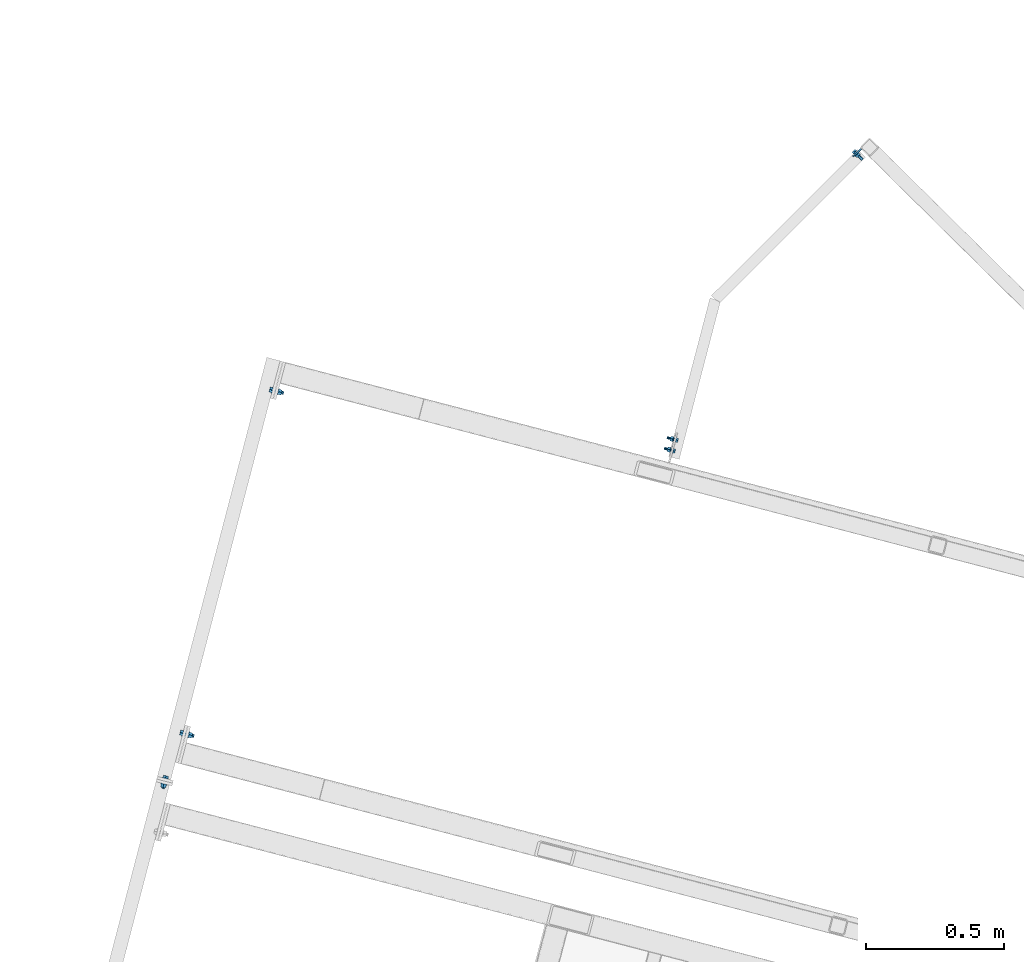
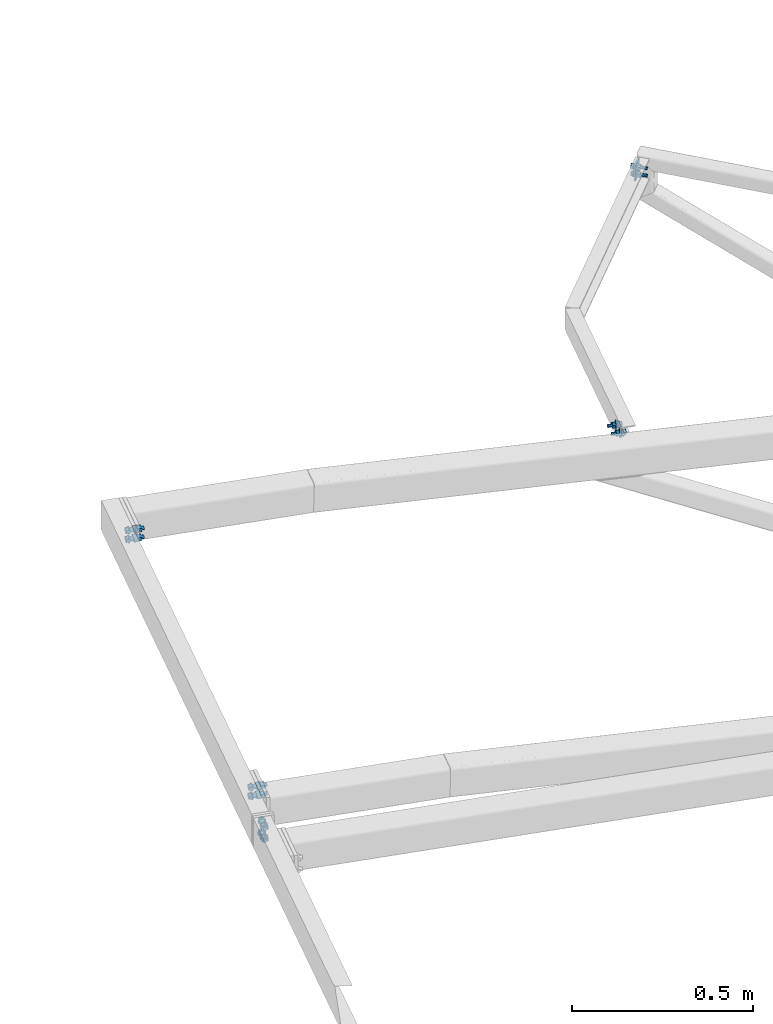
# One storey, part 157 of 169: 5 mechanical fasteners, 1 discrete accessory, 5 elements without a shape of their own.
"""IFC2X3 building model written with IfcOpenShell, lengths in millimetres."""

import ifcopenshell
import ifcopenshell.guid

model = None  # the IFC model being written
_history = None  # IfcOwnerHistory: only IFC2X3 demands one
_inside = {}  # id of a spatial element -> (the spatial element, [elements in it])
_under = {}  # id of a project, library or spatial element -> (it, [spatial elements below it])
_declared = {}  # id of a project -> (the project, [libraries it declares])
_typed = {}  # id of a type object -> (the type object, [elements of that type])
_made_of = {}  # id of a material, layer set ... -> (it, [elements and type objects made of it])


def new_model(schema):
    """Start an empty IFC model of exactly this schema.

    Asked for "IFC4X3", IfcOpenShell would pick the latest addendum, in which some entities
    have other attributes; the version numbers below select the first issue.
    IFC2X3 requires an IfcOwnerHistory on every rooted entity: one is made here for all.
    """
    global model, _history
    if schema == "IFC4X3":
        model = ifcopenshell.file(schema_version=(4, 3, 0, 0))
    else:
        model = ifcopenshell.file(schema=schema)
    _inside.clear()
    _under.clear()
    _declared.clear()
    _typed.clear()
    _made_of.clear()
    _history = None
    if model.schema == "IFC2X3":
        org = make("IfcOrganization", Name="unknown")
        user = make(
            "IfcPersonAndOrganization",
            ThePerson=make("IfcPerson", FamilyName="unknown"),
            TheOrganization=org,
        )
        app = make(
            "IfcApplication",
            ApplicationDeveloper=org,
            Version="unknown",
            ApplicationFullName="unknown",
            ApplicationIdentifier="unknown",
        )
        _history = make(
            "IfcOwnerHistory",
            OwningUser=user,
            OwningApplication=app,
            ChangeAction="ADDED",
            CreationDate=0,
        )
    return model


def make(cls, **values):
    """One entity of the class cls with the attributes given. An attribute that is None is left unset."""
    return model.create_entity(
        cls, **{name: value for name, value in values.items() if value is not None}
    )


def rooted(cls, **values):
    """An entity with a GlobalId (a new one), such as an element, a storey or a relation."""
    return make(cls, GlobalId=ifcopenshell.guid.new(), OwnerHistory=_history, **values)


def si_unit(unit_type, name, prefix=None):
    """IfcSIUnit, for example si_unit("LENGTHUNIT", "METRE", prefix="MILLI")."""
    return make("IfcSIUnit", UnitType=unit_type, Prefix=prefix, Name=name)


def assignment(units):
    """IfcUnitAssignment: the units of a project."""
    return None if units is None else make("IfcUnitAssignment", Units=units)


def point(xyz):
    """IfcCartesianPoint."""
    return None if xyz is None else make("IfcCartesianPoint", Coordinates=xyz)


def direction(xyz):
    """IfcDirection."""
    return None if xyz is None else make("IfcDirection", DirectionRatios=xyz)


def frame(location, z_axis=None, x_axis=None):
    """IfcAxis2Placement3D, a coordinate frame: its origin and axes. An axis left out is left unset."""
    return make(
        "IfcAxis2Placement3D",
        Location=point(location),
        Axis=direction(z_axis),
        RefDirection=direction(x_axis),
    )


def frame_2d(location, x_axis=None):
    """IfcAxis2Placement2D, a coordinate frame in the plane: its origin and x axis."""
    return make(
        "IfcAxis2Placement2D", Location=point(location), RefDirection=direction(x_axis)
    )


def origin_with_axes():
    """The frame at (0, 0, 0) with the z axis (0, 0, 1) and the x axis (1, 0, 0) written out."""
    return frame((0.0, 0.0, 0.0), z_axis=(0.0, 0.0, 1.0), x_axis=(1.0, 0.0, 0.0))


def origin_2d_with_axis():
    """The frame at (0, 0) in the plane with the x axis (1, 0) written out."""
    return frame_2d((0.0, 0.0), x_axis=(1.0, 0.0))


def place(relative_to, where):
    """IfcLocalPlacement: puts the frame where relative to a parent placement (None: the world)."""
    return make(
        "IfcLocalPlacement", PlacementRelTo=relative_to, RelativePlacement=where
    )


def context(
    kind, dimensions, precision=None, world=None, true_north=None, identifier=None
):
    """IfcGeometricRepresentationContext, for example the 3D "Model" context."""
    return make(
        "IfcGeometricRepresentationContext",
        ContextIdentifier=identifier,
        ContextType=kind,
        CoordinateSpaceDimension=dimensions,
        Precision=precision,
        WorldCoordinateSystem=world,
        TrueNorth=true_north,
    )


def subcontext(parent, identifier, kind, view, scale=None):
    """IfcGeometricRepresentationSubContext, for example "Body" below "Model"."""
    return make(
        "IfcGeometricRepresentationSubContext",
        ContextIdentifier=identifier,
        ContextType=kind,
        ParentContext=parent,
        TargetScale=scale,
        TargetView=view,
    )


def project(units=None, contexts=None):
    """IfcProject with its units and contexts."""
    return rooted(
        "IfcProject",
        Name="project",
        RepresentationContexts=contexts,
        UnitsInContext=assignment(units),
    )


def spatial(cls, under=None, at=None, **own):
    """A site, building, storey or space (cls), placed at a placement, below another one or the project."""
    s = rooted(cls, ObjectPlacement=at, **own)
    if under is not None:
        _under.setdefault(under.id(), (under, []))[1].append(s)
    return s


def polyline(points):
    """IfcPolyline through the points."""
    return make("IfcPolyline", Points=[point(p) for p in points])


def circle_curve(where, radius):
    """IfcCircle in the frame where."""
    return make("IfcCircle", Position=where, Radius=radius)


def parameter(value):
    """IfcParameterValue: where a trimmed curve begins or ends, as a parameter of its basis curve."""
    return model.create_entity("IfcParameterValue", value)


def trimmed(basis, trim1, trim2, sense, master):
    """IfcTrimmedCurve: the piece of a basis curve between two trims."""
    return make(
        "IfcTrimmedCurve",
        BasisCurve=basis,
        Trim1=trim1,
        Trim2=trim2,
        SenseAgreement=sense,
        MasterRepresentation=master,
    )


def segment(curve, same_sense, transition):
    """IfcCompositeCurveSegment."""
    return make(
        "IfcCompositeCurveSegment",
        Transition=transition,
        SameSense=same_sense,
        ParentCurve=curve,
    )


def composite_curve(segments, self_intersect=None):
    """IfcCompositeCurve: segments joined end to end."""
    return make("IfcCompositeCurve", Segments=segments, SelfIntersect=self_intersect)


def profile(cls, at=None, kind="AREA", **sizes):
    """A parametric profile (cls). Its sizes go by their IFC names, for example OverallWidth=200.0."""
    return make(cls, ProfileType=kind, Position=at, **sizes)


def circle(**sizes):
    """IfcCircleProfileDef."""
    return profile("IfcCircleProfileDef", **sizes)


def outline(outer, holes=None, kind="AREA"):
    """IfcArbitraryClosedProfileDef: a profile drawn as a closed curve; with holes, ...WithVoids."""
    if holes is None:
        return make("IfcArbitraryClosedProfileDef", ProfileType=kind, OuterCurve=outer)
    return make(
        "IfcArbitraryProfileDefWithVoids",
        ProfileType=kind,
        OuterCurve=outer,
        InnerCurves=holes,
    )


def extrude(swept, where, along, depth):
    """IfcExtrudedAreaSolid: the profile swept, set in the frame where, extruded along a direction by depth."""
    return make(
        "IfcExtrudedAreaSolid",
        SweptArea=swept,
        Position=where,
        ExtrudedDirection=direction(along),
        Depth=depth,
    )


def shape(context_of_items, identifier, shape_type, items):
    """IfcShapeRepresentation: the items that make up one representation, for example the "Body"."""
    return make(
        "IfcShapeRepresentation",
        ContextOfItems=context_of_items,
        RepresentationIdentifier=identifier,
        RepresentationType=shape_type,
        Items=items,
    )


def source(mapping_origin, context_of_items, identifier, shape_type, items):
    """IfcRepresentationMap: a shape defined once, which mapped items show again and again."""
    return make(
        "IfcRepresentationMap",
        MappingOrigin=mapping_origin,
        MappedRepresentation=shape(context_of_items, identifier, shape_type, items),
    )


def transform(
    local_origin,
    x_axis=None,
    y_axis=None,
    z_axis=None,
    scale=None,
    scale2=None,
    scale3=None,
    uniform=True,
):
    """IfcCartesianTransformationOperator3D, or its non-uniform kind. x_axis, y_axis, z_axis: its Axis1, 2, 3."""
    if uniform:
        return make(
            "IfcCartesianTransformationOperator3D",
            Axis1=direction(x_axis),
            Axis2=direction(y_axis),
            LocalOrigin=point(local_origin),
            Scale=scale,
            Axis3=direction(z_axis),
        )
    return make(
        "IfcCartesianTransformationOperator3DnonUniform",
        Axis1=direction(x_axis),
        Axis2=direction(y_axis),
        LocalOrigin=point(local_origin),
        Scale=scale,
        Axis3=direction(z_axis),
        Scale2=scale2,
        Scale3=scale3,
    )


def mapped(mapping_source, mapping_target):
    """IfcMappedItem: shows the shape of a source again, moved by a transform."""
    return make(
        "IfcMappedItem", MappingSource=mapping_source, MappingTarget=mapping_target
    )


def material(Name=None, Category=None):
    """IfcMaterial."""
    return make("IfcMaterial", Name=Name, Category=Category)


def made_of(thing, what):
    """Note that an element or type object is made of a material, layer set ...; save() writes the relation."""
    if what is not None:
        _made_of.setdefault(what.id(), (what, []))[1].append(thing)
    return thing


def type_object(cls, material=None, **own):
    """A type object (cls), such as IfcWallType, which elements share."""
    return made_of(rooted(cls, **own), material)


def element(
    cls,
    number,
    at=None,
    inside=None,
    cuts=None,
    type_object=None,
    material=None,
    context=None,
    identifier="Body",
    shape_type=None,
    held_by="IfcProductDefinitionShape",
    body=None,
    shapes=None,
    **own,
):
    """One element of the class cls, such as IfcWall. Its Tag is "e" and its number.

    at: its placement. inside: the storey or other place that contains it. cuts: it is an
    opening in that element (IfcRelVoidsElement). A single representation is given by context,
    identifier, shape_type and body (its items); several are given by shapes. held_by: the class
    of the entity that holds the representations. save() writes the other relations.
    """
    e = rooted(cls, Tag="e%d" % number, ObjectPlacement=at, **own)
    if body is not None:
        shapes = [shape(context, identifier, shape_type, body)]
    if shapes is not None:
        e.Representation = make(held_by, Representations=shapes)
    if inside is not None:
        _inside.setdefault(inside.id(), (inside, []))[1].append(e)
    if cuts is not None:
        rooted(
            "IfcRelVoidsElement", RelatingBuildingElement=cuts, RelatedOpeningElement=e
        )
    if type_object is not None:
        _typed.setdefault(type_object.id(), (type_object, []))[1].append(e)
    return made_of(e, material)


def aggregate(whole, parts):
    """IfcRelAggregates: a whole, such as a stair, and the parts it consists of."""
    return rooted("IfcRelAggregates", RelatingObject=whole, RelatedObjects=parts)


def save(model, path):
    """Write the relations noted so far, then the file.

    IfcRelAggregates (storeys below a building ...), IfcRelContainedInSpatialStructure (elements
    in a storey), IfcRelDefinesByType, IfcRelAssociatesMaterial and IfcRelDeclares: one each for
    every whole, place, type object, material and project.
    """
    for whole, parts in _under.values():
        aggregate(whole, parts)
    for where, things in _inside.values():
        rooted(
            "IfcRelContainedInSpatialStructure",
            RelatedElements=things,
            RelatingStructure=where,
        )
    for kind, things in _typed.values():
        rooted("IfcRelDefinesByType", RelatedObjects=things, RelatingType=kind)
    for what, things in _made_of.values():
        rooted("IfcRelAssociatesMaterial", RelatedObjects=things, RelatingMaterial=what)
    for by, libraries in _declared.values():
        rooted("IfcRelDeclares", RelatingContext=by, RelatedDefinitions=libraries)
    model.write(path)


model = new_model("IFC2X3")

# Units and contexts
model_context = context("Model", 3, precision=1e-05, world=origin_with_axes())
body_context = subcontext(model_context, "Body", "Model", "MODEL_VIEW")
ifc_project = project(units=[si_unit("LENGTHUNIT", "METRE", prefix="MILLI"), si_unit("AREAUNIT", "SQUARE_METRE"), si_unit("VOLUMEUNIT", "CUBIC_METRE"), si_unit("MASSUNIT", "GRAM", prefix="KILO"), si_unit("TIMEUNIT", "SECOND"), si_unit("PLANEANGLEUNIT", "RADIAN"), si_unit("SOLIDANGLEUNIT", "STERADIAN"), si_unit("THERMODYNAMICTEMPERATUREUNIT", "DEGREE_CELSIUS"), si_unit("LUMINOUSINTENSITYUNIT", "LUMEN")], contexts=[model_context])

# Site, building, storey
site_placement = place(None, origin_with_axes())
site = spatial("IfcSite", under=ifc_project, at=site_placement, Name="Undefined", CompositionType="ELEMENT")
building_placement = place(site_placement, origin_with_axes())
building = spatial("IfcBuilding", under=site, at=building_placement, Name="Undefined", CompositionType="ELEMENT")
storey_placement = place(building_placement, origin_with_axes())
storey = spatial("IfcBuildingStorey", under=building, at=storey_placement, Name="Undefined", CompositionType="ELEMENT", Elevation=0.0)

# Assembly, mechanical fastener
assembly_1_placement = place(storey_placement, origin_with_axes())
assembly_1 = element("IfcElementAssembly", 1, at=assembly_1_placement, inside=storey, Name="Steel Assembly", AssemblyPlace="NOTDEFINED", PredefinedType="RIGID_FRAME")
ifc_material_1 = material(Name="Undefined")
discrete_accessory_type_1 = type_object("IfcDiscreteAccessoryType", Name="Bolt assembly")
shared_shape_1 = source(origin_with_axes(), body_context, "Body", "SweptSolid", [
    extrude(circle(Radius=7.5, at=origin_2d_with_axis()), frame((0.0, -9.90000000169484, 0.0), z_axis=(0.0, 1.0, 0.0), x_axis=(1.0, 0.0, 0.0)), (0.0, 0.0, 1.0), 10.0),
    extrude(circle(Radius=7.5, at=origin_2d_with_axis()), frame((0.0, -0.100000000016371, 0.0), z_axis=(0.0, 1.0, 0.0), x_axis=(1.0, 0.0, 0.0)), (0.0, 0.0, 1.0), 10.1),
    extrude(outline(polyline([(10.39230484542, 0.0), (5.19615242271, 9.00000000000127), (-5.19615242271, 9.00000000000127), (-10.39230484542, 0.0), (-5.19615242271, -9.00000000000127), (5.19615242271, -9.00000000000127), (10.39230484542, 0.0)])), frame((0.0, -20.0000000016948, 0.0), z_axis=(0.0, 1.0, 0.0), x_axis=(1.0, 0.0, 0.0)), (0.0, 0.0, 1.0), 7.5),
    extrude(circle(Radius=6.0, at=origin_2d_with_axis()), frame((0.0, -12.5000000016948, 0.0), z_axis=(0.0, 1.0, 0.0), x_axis=(1.0, 0.0, 0.0)), (0.0, 0.0, 1.0), 40.0),
    extrude(circle(Radius=12.0, at=origin_2d_with_axis()), frame((0.0, -12.5000000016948, 0.0), z_axis=(0.0, 1.0, 0.0), x_axis=(1.0, 0.0, 0.0)), (0.0, 0.0, 1.0), 2.5),
    extrude(circle(Radius=12.0, at=origin_2d_with_axis()), frame((0.0, 9.99999999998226, 0.0), z_axis=(0.0, 1.0, 0.0), x_axis=(1.0, 0.0, 0.0)), (0.0, 0.0, 1.0), 2.5),
    extrude(outline(polyline([(10.96965511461, 0.0), (5.484827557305, 9.50000000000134), (-5.484827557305, 9.50000000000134), (-10.96965511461, 0.0), (-5.484827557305, -9.50000000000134), (5.484827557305, -9.50000000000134), (10.96965511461, 0.0)])), frame((0.0, 12.4999999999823, 0.0), z_axis=(0.0, 1.0, 0.0), x_axis=(1.0, 0.0, 0.0)), (0.0, 0.0, 1.0), 10.0),
])
mechanical_fastener_1_placement = place(assembly_1_placement, frame((-26311.606784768, 11212.2612754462, 13925.3759255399), z_axis=(0.96756338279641, -0.25262835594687, 0.000118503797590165), x_axis=(-8.00909999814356e-05, 0.000162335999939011, 0.999999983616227)))
mechanical_fastener_1 = element("IfcMechanicalFastener", 2, at=mechanical_fastener_1_placement, type_object=discrete_accessory_type_1, material=ifc_material_1, Name="Bolt assembly", NominalDiameter=12.0, NominalLength=40.0, context=body_context, shape_type="MappedRepresentation", body=[
    mapped(shared_shape_1, transform((30.0000000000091, 2.09183781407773e-11, 5.00000000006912))),
    mapped(shared_shape_1, transform((70.00000000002, 3.00133251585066e-11, 5.0000000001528))),
])
aggregate(assembly_1, [mechanical_fastener_1])

# Assembly, discrete accessory
assembly_2_placement = place(storey_placement, origin_with_axes())
assembly_2 = element("IfcElementAssembly", 3, at=assembly_2_placement, inside=storey, Name="Steel Assembly", AssemblyPlace="NOTDEFINED", PredefinedType="RIGID_FRAME")
ifc_material_2 = material(Name="STEEL/S235")
discrete_accessory_type_2 = type_object("IfcDiscreteAccessoryType", Name="BLACHA")
discrete_accessory_placement = place(assembly_2_placement, frame((-23796.5256209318, 13489.5966139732, 13918.073987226), z_axis=(0.711191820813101, -0.702997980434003, 0.000183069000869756), x_axis=(0.00032810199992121, 0.000592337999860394, 0.99999977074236)))
discrete_accessory = element("IfcDiscreteAccessory", 4, at=discrete_accessory_placement, type_object=discrete_accessory_type_2, material=ifc_material_2, Name="BLACHA", ObjectType="BL40X5", context=body_context, shape_type="SweptSolid", body=[
    extrude(outline(polyline([(3.27418092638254e-11, 20.0000000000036), (54.0000420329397, 19.9999999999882), (54.0000420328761, -20.0000000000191), (-3.27418092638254e-11, -20.0000000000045), (3.27418092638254e-11, 20.0000000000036)])), frame((6.80888809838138e-19, -2.87858853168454e-21, -2.49999999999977), z_axis=(0.0, 0.0, 1.0), x_axis=(1.0, 0.0, 0.0)), (0.0, 0.0, 1.0), 5.0),
])
aggregate(assembly_2, [discrete_accessory])

# Assembly, mechanical fasteners
assembly_3_placement = place(storey_placement, origin_with_axes())
assembly_3 = element("IfcElementAssembly", 5, at=assembly_3_placement, inside=storey, Name="Steel Assembly", AssemblyPlace="NOTDEFINED", PredefinedType="RIGID_FRAME")
shared_shape_2 = source(origin_with_axes(), body_context, "Body", "SweptSolid", [
    extrude(circle(Radius=6.0, at=origin_2d_with_axis()), frame((0.0, -0.100000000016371, 0.0), z_axis=(0.0, 1.0, 0.0), x_axis=(1.0, 0.0, 0.0)), (0.0, 0.0, 1.0), 5.1),
    extrude(circle(Radius=6.0, at=origin_2d_with_axis()), frame((0.0, -3.47051235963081, 0.0), z_axis=(0.0, 1.0, 0.0), x_axis=(1.0, 0.0, 0.0)), (0.0, 0.0, 1.0), 4.0),
    extrude(outline(polyline([(8.66025403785, 0.0), (4.330127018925, 7.50000000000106), (-4.330127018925, 7.50000000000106), (-8.66025403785, 0.0), (-4.330127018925, -7.50000000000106), (4.330127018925, -7.50000000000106), (8.66025403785, 0.0)])), frame((0.0, -11.9705124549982, 0.0), z_axis=(0.0, 1.0, 0.0), x_axis=(1.0, 0.0, 0.0)), (0.0, 0.0, 1.0), 6.4),
    extrude(circle(Radius=5.0, at=origin_2d_with_axis()), frame((0.0, -5.57051235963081, 0.0), z_axis=(0.0, 1.0, 0.0), x_axis=(1.0, 0.0, 0.0)), (0.0, 0.0, 1.0), 40.0),
    extrude(circle(Radius=10.0, at=origin_2d_with_axis()), frame((0.0, -5.57051235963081, 0.0), z_axis=(0.0, 1.0, 0.0), x_axis=(1.0, 0.0, 0.0)), (0.0, 0.0, 1.0), 2.0),
    extrude(circle(Radius=10.0, at=origin_2d_with_axis()), frame((0.0, 4.99997856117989, 0.0), z_axis=(0.0, 1.0, 0.0), x_axis=(1.0, 0.0, 0.0)), (0.0, 0.0, 1.0), 2.0),
    extrude(outline(polyline([(9.81495457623, 0.0), (4.907477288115, 8.5000000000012), (-4.907477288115, 8.5000000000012), (-9.81495457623, 0.0), (-4.907477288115, -8.5000000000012), (4.907477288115, -8.5000000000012), (9.81495457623, 0.0)])), frame((0.0, 6.99997856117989, 0.0), z_axis=(0.0, 1.0, 0.0), x_axis=(1.0, 0.0, 0.0)), (0.0, 0.0, 1.0), 8.0),
])
mechanical_fastener_2_placement = place(assembly_3_placement, frame((-23784.22328434, 13505.6146507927, 13980.060518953), z_axis=(-0.702997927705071, -0.711191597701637, 0.00065192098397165), x_axis=(-0.000328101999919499, -0.000592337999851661, -0.99999977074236)))
mechanical_fastener_2 = element("IfcMechanicalFastener", 6, at=mechanical_fastener_2_placement, type_object=discrete_accessory_type_1, material=ifc_material_1, Name="Bolt assembly", NominalDiameter=10.0, NominalLength=40.0, context=body_context, shape_type="MappedRepresentation", body=[
    mapped(shared_shape_2, transform((22.5000209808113, 9.45874489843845e-11, 25.0000000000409))),
    mapped(shared_shape_2, transform((47.5000228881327, 1.23691279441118e-10, 25.0000000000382))),
])
shared_shape_3 = source(origin_with_axes(), body_context, "Body", "SweptSolid", [
    extrude(outline(composite_curve([segment(polyline([(6.0, 10.0), (6.0, -10.0)]), True, "CONTINUOUS"), segment(trimmed(circle_curve(frame_2d((0.0, -10.0), x_axis=(1.0, 0.0)), 6.0), [parameter(0.0)], [parameter(3.14159265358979)], False, "PARAMETER"), True, "CONTINUOUS"), segment(polyline([(-6.0, -10.0), (-6.0, 10.0)]), True, "CONTINUOUS"), segment(trimmed(circle_curve(frame_2d((0.0, 10.0), x_axis=(-1.0, 0.0)), 6.0), [parameter(0.0)], [parameter(3.14159265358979)], False, "PARAMETER"), True, "DISCONTINUOUS")], self_intersect=False)), frame((0.0, -5.89984958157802, 0.0), z_axis=(0.0, 1.0, 0.0), x_axis=(1.0, 0.0, 0.0)), (0.0, 0.0, 1.0), 6.0),
    extrude(outline(composite_curve([segment(polyline([(-10.0, 6.0), (10.0, 6.0)]), True, "CONTINUOUS"), segment(trimmed(circle_curve(frame_2d((10.0, 0.0), x_axis=(0.0, 1.0)), 6.0), [parameter(0.0)], [parameter(3.14159265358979)], False, "PARAMETER"), True, "CONTINUOUS"), segment(polyline([(10.0, -6.0), (-10.0, -6.0)]), True, "CONTINUOUS"), segment(trimmed(circle_curve(frame_2d((-10.0, 0.0), x_axis=(0.0, -1.0)), 6.0), [parameter(0.0)], [parameter(3.14159265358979)], False, "PARAMETER"), True, "DISCONTINUOUS")], self_intersect=False)), frame((0.0, -0.100000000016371, 0.0), z_axis=(0.0, 1.0, 0.0), x_axis=(1.0, 0.0, 0.0)), (0.0, 0.0, 1.0), 4.1),
    extrude(outline(polyline([(8.66025403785, 0.0), (4.330127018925, 7.50000000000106), (-4.330127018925, 7.50000000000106), (-8.66025403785, 0.0), (-4.330127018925, -7.50000000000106), (4.330127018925, -7.50000000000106), (8.66025403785, 0.0)])), frame((0.0, -14.3998496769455, 0.0), z_axis=(0.0, 1.0, 0.0), x_axis=(1.0, 0.0, 0.0)), (0.0, 0.0, 1.0), 6.4),
    extrude(circle(Radius=5.0, at=origin_2d_with_axis()), frame((0.0, -7.99984958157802, 0.0), z_axis=(0.0, 1.0, 0.0), x_axis=(1.0, 0.0, 0.0)), (0.0, 0.0, 1.0), 35.0),
    extrude(circle(Radius=10.0, at=origin_2d_with_axis()), frame((0.0, -7.99984958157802, 0.0), z_axis=(0.0, 1.0, 0.0), x_axis=(1.0, 0.0, 0.0)), (0.0, 0.0, 1.0), 2.0),
    extrude(circle(Radius=10.0, at=origin_2d_with_axis()), frame((0.0, 3.99999999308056, 0.0), z_axis=(0.0, 1.0, 0.0), x_axis=(1.0, 0.0, 0.0)), (0.0, 0.0, 1.0), 2.0),
    extrude(outline(polyline([(9.81495457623, 0.0), (4.907477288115, 8.5000000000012), (-4.907477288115, 8.5000000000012), (-9.81495457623, 0.0), (-4.907477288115, -8.5000000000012), (4.907477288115, -8.5000000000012), (9.81495457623, 0.0)])), frame((0.0, 5.99999999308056, 0.0), z_axis=(0.0, 1.0, 0.0), x_axis=(1.0, 0.0, 0.0)), (0.0, 0.0, 1.0), 8.0),
])
mechanical_fastener_3_placement = place(assembly_3_placement, frame((-24481.3856474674, 12367.370902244, 13980.1628926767), z_axis=(0.252628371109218, 0.967563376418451, -0.000136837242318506), x_axis=(8.00909999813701e-05, -0.000162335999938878, -0.999999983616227)))
mechanical_fastener_3 = element("IfcMechanicalFastener", 7, at=mechanical_fastener_3_placement, type_object=discrete_accessory_type_1, material=ifc_material_1, Name="Bolt assembly", NominalDiameter=10.0, NominalLength=35.0, context=body_context, shape_type="MappedRepresentation", body=[
    mapped(shared_shape_3, transform((34.9999999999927, -1.60071067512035e-10, 44.9999999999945))),
    mapped(shared_shape_3, transform((34.9999999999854, -2.7648638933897e-10, 84.9999999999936))),
])
aggregate(assembly_3, [mechanical_fastener_2, mechanical_fastener_3])

# Assembly, mechanical fastener
assembly_4_placement = place(storey_placement, origin_with_axes())
assembly_4 = element("IfcElementAssembly", 8, at=assembly_4_placement, inside=storey, Name="Steel Assembly", AssemblyPlace="NOTDEFINED", PredefinedType="RIGID_FRAME")
shared_shape_4 = source(origin_with_axes(), body_context, "Body", "SweptSolid", [
    extrude(circle(Radius=7.5, at=origin_2d_with_axis()), frame((0.0, -10.3999999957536, 0.0), z_axis=(0.0, 1.0, 0.0), x_axis=(1.0, 0.0, 0.0)), (0.0, 0.0, 1.0), 10.0),
    extrude(outline(composite_curve([segment(polyline([(7.5, 7.5), (7.5, -7.5)]), True, "CONTINUOUS"), segment(trimmed(circle_curve(frame_2d((0.0, -7.5), x_axis=(1.0, 0.0)), 7.5), [parameter(0.0)], [parameter(3.14159265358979)], False, "PARAMETER"), True, "CONTINUOUS"), segment(polyline([(-7.5, -7.5), (-7.5, 7.5)]), True, "CONTINUOUS"), segment(trimmed(circle_curve(frame_2d((0.0, 7.5), x_axis=(-1.0, 0.0)), 7.5), [parameter(0.0)], [parameter(3.14159265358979)], False, "PARAMETER"), True, "DISCONTINUOUS")], self_intersect=False)), frame((0.0, 0.400000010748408, 0.0), z_axis=(0.0, 1.0, 0.0), x_axis=(1.0, 0.0, 0.0)), (0.0, 0.0, 1.0), 10.1),
    extrude(outline(polyline([(10.39230484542, 0.0), (5.19615242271, 9.00000000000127), (-5.19615242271, 9.00000000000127), (-10.39230484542, 0.0), (-5.19615242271, -9.00000000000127), (5.19615242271, -9.00000000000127), (10.39230484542, 0.0)])), frame((0.0, -20.9999999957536, 0.0), z_axis=(0.0, 1.0, 0.0), x_axis=(1.0, 0.0, 0.0)), (0.0, 0.0, 1.0), 7.5),
    extrude(circle(Radius=6.0, at=origin_2d_with_axis()), frame((0.0, -13.4999999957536, 0.0), z_axis=(0.0, 1.0, 0.0), x_axis=(1.0, 0.0, 0.0)), (0.0, 0.0, 1.0), 45.0),
    extrude(circle(Radius=12.0, at=origin_2d_with_axis()), frame((0.0, -13.4999999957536, 0.0), z_axis=(0.0, 1.0, 0.0), x_axis=(1.0, 0.0, 0.0)), (0.0, 0.0, 1.0), 3.0),
    extrude(circle(Radius=12.0, at=origin_2d_with_axis()), frame((0.0, 10.500000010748, 0.0), z_axis=(0.0, 1.0, 0.0), x_axis=(1.0, 0.0, 0.0)), (0.0, 0.0, 1.0), 3.0),
    extrude(outline(polyline([(10.96965511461, 0.0), (5.484827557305, 9.50000000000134), (-5.484827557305, 9.50000000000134), (-10.96965511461, 0.0), (-5.484827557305, -9.50000000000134), (5.484827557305, -9.50000000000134), (10.96965511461, 0.0)])), frame((0.0, 13.500000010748, 0.0), z_axis=(0.0, 1.0, 0.0), x_axis=(1.0, 0.0, 0.0)), (0.0, 0.0, 1.0), 10.0),
])
mechanical_fastener_4_placement = place(assembly_4_placement, frame((-26248.2140266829, 11314.5789731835, 14025.24485359), z_axis=(-0.252628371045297, -0.967563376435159, 0.000136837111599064), x_axis=(8.00909999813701e-05, -0.000162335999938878, -0.999999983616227)))
mechanical_fastener_4 = element("IfcMechanicalFastener", 9, at=mechanical_fastener_4_placement, type_object=discrete_accessory_type_1, material=ifc_material_1, Name="Bolt assembly", NominalDiameter=12.0, NominalLength=45.0, context=body_context, shape_type="MappedRepresentation", body=[
    mapped(shared_shape_4, transform((34.9999999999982, 1.2732925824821e-10, -69.9999999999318))),
    mapped(shared_shape_4, transform((65.0000000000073, 1.89174897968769e-10, -69.9999999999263))),
])
aggregate(assembly_4, [mechanical_fastener_4])

assembly_5_placement = place(storey_placement, origin_with_axes())
assembly_5 = element("IfcElementAssembly", 10, at=assembly_5_placement, inside=storey, Name="Steel Assembly", AssemblyPlace="NOTDEFINED", PredefinedType="RIGID_FRAME")
shared_shape_5 = source(origin_with_axes(), body_context, "Body", "SweptSolid", [
    extrude(circle(Radius=7.5, at=origin_2d_with_axis()), frame((0.0, -10.3999999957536, 0.0), z_axis=(0.0, 1.0, 0.0), x_axis=(1.0, 0.0, 0.0)), (0.0, 0.0, 1.0), 10.0),
    extrude(outline(composite_curve([segment(polyline([(7.5, 7.5), (7.5, -7.5)]), True, "CONTINUOUS"), segment(trimmed(circle_curve(frame_2d((0.0, -7.5), x_axis=(1.0, 0.0)), 7.5), [parameter(0.0)], [parameter(3.14159265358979)], False, "PARAMETER"), True, "CONTINUOUS"), segment(polyline([(-7.5, -7.5), (-7.5, 7.5)]), True, "CONTINUOUS"), segment(trimmed(circle_curve(frame_2d((0.0, 7.5), x_axis=(-1.0, 0.0)), 7.5), [parameter(0.0)], [parameter(3.14159265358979)], False, "PARAMETER"), True, "DISCONTINUOUS")], self_intersect=False)), frame((0.0, 0.400000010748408, 0.0), z_axis=(0.0, 1.0, 0.0), x_axis=(1.0, 0.0, 0.0)), (0.0, 0.0, 1.0), 10.1),
    extrude(outline(polyline([(10.39230484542, 0.0), (5.19615242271, 9.00000000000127), (-5.19615242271, 9.00000000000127), (-10.39230484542, 0.0), (-5.19615242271, -9.00000000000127), (5.19615242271, -9.00000000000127), (10.39230484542, 0.0)])), frame((0.0, -20.9999999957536, 0.0), z_axis=(0.0, 1.0, 0.0), x_axis=(1.0, 0.0, 0.0)), (0.0, 0.0, 1.0), 7.5),
    extrude(circle(Radius=6.0, at=origin_2d_with_axis()), frame((0.0, -13.4999999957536, 0.0), z_axis=(0.0, 1.0, 0.0), x_axis=(1.0, 0.0, 0.0)), (0.0, 0.0, 1.0), 45.0),
    extrude(circle(Radius=12.0, at=origin_2d_with_axis()), frame((0.0, -13.4999999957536, 0.0), z_axis=(0.0, 1.0, 0.0), x_axis=(1.0, 0.0, 0.0)), (0.0, 0.0, 1.0), 3.0),
    extrude(circle(Radius=12.0, at=origin_2d_with_axis()), frame((0.0, 10.500000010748, 0.0), z_axis=(0.0, 1.0, 0.0), x_axis=(1.0, 0.0, 0.0)), (0.0, 0.0, 1.0), 3.0),
    extrude(outline(polyline([(10.96965511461, 0.0), (5.484827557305, 9.50000000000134), (-5.484827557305, 9.50000000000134), (-10.96965511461, 0.0), (-5.484827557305, -9.50000000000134), (5.484827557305, -9.50000000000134), (10.96965511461, 0.0)])), frame((0.0, 13.500000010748, 0.0), z_axis=(0.0, 1.0, 0.0), x_axis=(1.0, 0.0, 0.0)), (0.0, 0.0, 1.0), 10.0),
])
mechanical_fastener_5_placement = place(assembly_5_placement, frame((-25888.2185980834, 12693.3567836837, 14025.0498320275), z_axis=(-0.252628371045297, -0.967563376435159, 0.000136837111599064), x_axis=(8.00909999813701e-05, -0.000162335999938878, -0.999999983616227)))
mechanical_fastener_5 = element("IfcMechanicalFastener", 11, at=mechanical_fastener_5_placement, type_object=discrete_accessory_type_1, material=ifc_material_1, Name="Bolt assembly", NominalDiameter=12.0, NominalLength=45.0, context=body_context, shape_type="MappedRepresentation", body=[
    mapped(shared_shape_5, transform((35.0000000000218, 7.27595761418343e-12, 69.9999999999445))),
    mapped(shared_shape_5, transform((65.0000000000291, 6.54836185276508e-11, 69.9999999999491))),
])
aggregate(assembly_5, [mechanical_fastener_5])

save(model, "model.ifc")
